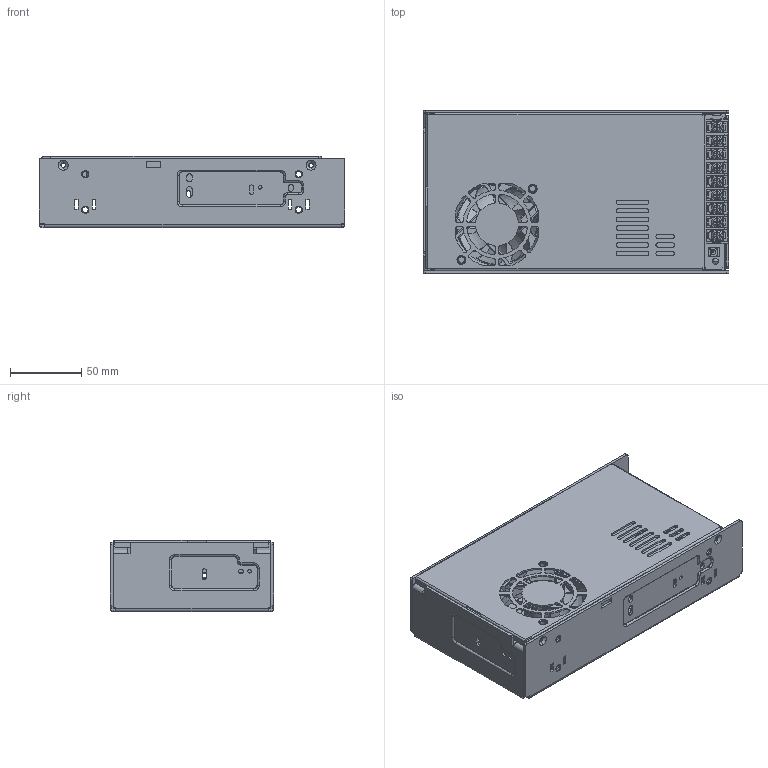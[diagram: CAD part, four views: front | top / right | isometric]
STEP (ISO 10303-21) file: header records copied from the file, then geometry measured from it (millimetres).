
FILE_DESCRIPTION((''),'2;1');
FILE_NAME('PMT-4V_5V350W1AM_PMT-36V_48V_35_ASM','2020-12-15T',('EUNICE.HUANG'),(''),'PRO/ENGINEER BY PARAMETRIC TECHNOLOGY CORPORATION, 2015240','PRO/ENGINEER BY PARAMETRIC TECHNOLOGY CORPORATION, 2015240','');
FILE_SCHEMA(('AUTOMOTIVE_DESIGN { 1 0 10303 214 1 1 1 1 }'));
Products named in the file (41): MANIFOLD_SOLID_BREP_12763; CHASSIS_AF0_1_ASM_ASM_ASM_ASM_A_ASM; CHASSIS-STANDOFF_1; CHASSIS-STANDOFF-1_1; CHASSIS_ASM_1_ASM_ASM_ASM_ASM_A_ASM; INSULATOR_1; PWB_2_25_2013_1; SWITCH_1; Q34_1; VR1__1; LEG1__1; VR_LEG__ASM_1_ASM_ASM_ASM_ASM_A_ASM; MANIFOLD_SOLID_BREP_41186; MANIFOLD_SOLID_BREP_41274; LED_HOLDER_1_ASM_ASM_ASM_ASM_AS_ASM; 3105325300-L8_1; COVER-01_1; BOX1_1; PRT0001_1; PRT0002_1; PRT0003_1; PRT0004_1; PRT0005_1; PRT0006_1; PRT0007_1; PRT0008_1; PRT0009_1; PRT0010_1; T44-ES1109A302_ASM_2_ASM_ASM_AS_ASM; 6020KUANG_48_1; 6020XIN_YE_29_4_1; 6020_ASM_6_ASM_1_ASM_ASM_ASM_AS_ASM; 6020-1_ASM_ASM_1_ASM_ASM_ASM_AS_ASM; CASE_ASM_2_ASM_ASM_ASM_ASM_ASM_ASM; PMT-4V_5V_36V_48V_350W1AM_1AR_A_ASM; ASM0017_ASM_ASM_ASM_ASM; ASM0017_ASM_ASM_ASM; MANIFOLD_SOLID_BREP_12608_1_1; ASM0001_ASM_ASM; ASM0001_ASM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
Assembly tree (51 placements, depth 10):
  PMT-4V_5V350W1AM_PMT-36V_48V_35_ASM
    ASM0001_ASM
      ASM0001_ASM_ASM
        ASM0017_ASM_ASM_ASM
          ASM0017_ASM_ASM_ASM_ASM
            PMT-4V_5V_36V_48V_350W1AM_1AR_A_ASM
              CASE_ASM_2_ASM_ASM_ASM_ASM_ASM_ASM
                CHASSIS_ASM_1_ASM_ASM_ASM_ASM_A_ASM
                  CHASSIS_AF0_1_ASM_ASM_ASM_ASM_A_ASM
                  CHASSIS-STANDOFF_1  x2
                  CHASSIS-STANDOFF-1_1  x3
                INSULATOR_1
                PWB_2_25_2013_1
                SWITCH_1
                Q34_1
                VR_LEG__ASM_1_ASM_ASM_ASM_ASM_A_ASM
                  VR1__1
                  LEG1__1  x3
                LED_HOLDER_1_ASM_ASM_ASM_ASM_AS_ASM
                  MANIFOLD_SOLID_BREP_41186
                  MANIFOLD_SOLID_BREP_41274
                3105325300-L8_1  x5
                COVER-01_1
                BOX1_1  x3
                T44-ES1109A302_ASM_2_ASM_ASM_AS_ASM
                  PRT0001_1
                  PRT0002_1
                  PRT0003_1
                  PRT0004_1
                  PRT0005_1
                  PRT0006_1
                  PRT0007_1
                  PRT0008_1
                  PRT0009_1
                  PRT0010_1
                6020-1_ASM_ASM_1_ASM_ASM_ASM_AS_ASM
                  6020_ASM_6_ASM_1_ASM_ASM_ASM_AS_ASM
        MANIFOLD_SOLID_BREP_12608_1_1
Bounding box: 215 x 115 x 50 mm (x, y, z)
Volume: 211247.4 mm3; surface area: 291955.6 mm2
Topology: 38 solids, 38 shells, 2788 faces, 7619 edges, 4933 vertices
Faces by surface type: plane 1501, cylinder 852, bspline 148, cone 138, torus 97, extrusion 50, sphere 2
Entity records: 94312 total; most frequent: CARTESIAN_POINT 32223, ORIENTED_EDGE 12902, DIRECTION 12182, EDGE_CURVE 6451, VERTEX_POINT 4209, AXIS2_PLACEMENT_3D 4094, VECTOR 3994, LINE 3944
